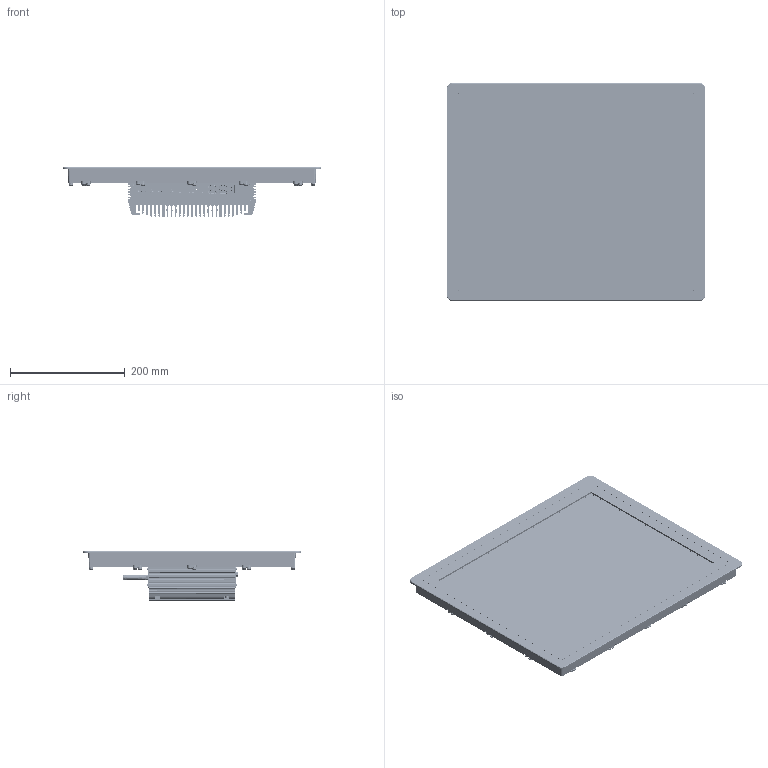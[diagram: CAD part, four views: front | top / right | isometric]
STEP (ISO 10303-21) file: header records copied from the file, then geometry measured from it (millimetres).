
FILE_DESCRIPTION(/* description */ (''),/* implementation_level */ '2;1');
FILE_NAME(/* name */ '19.0总装.stp',/* time_stamp */ '2026-03-05T10:44:02+08:00',/* author */ (''),/* organization */ (''),/* preprocessor_version */ 'ST-DEVELOPER v16',/* originating_system */ 'SIEMENS PLM Software NX 10.0',/* authorisation */ '');
FILE_SCHEMA (('AP203_CONFIGURATION_CONTROLLED_3D_DESIGN_OF_MECHANICAL_PARTS_AND_ASSEMBLIES_MIM_LF { 1 0 10303 403 2 1 2}'));
Products named in the file (1): Admi1FF8C4AFepos
Bounding box: 451 x 380 x 86 mm (x, y, z)
Volume: 2668718.9 mm3; surface area: 1256197.7 mm2
Topology: 220 solids, 239 shells, 14710 faces, 38091 edges, 23910 vertices
Faces by surface type: plane 5942, cylinder 5892, bspline 1880, torus 530, cone 332, sphere 134
Full cylindrical faces by diameter (mm): 3 x4, 4.2 x1, 6 x16, 7 x16
Entity records: 619260 total; most frequent: CARTESIAN_POINT 328260, ORIENTED_EDGE 75278, DIRECTION 38336, EDGE_CURVE 37645, B_SPLINE_CURVE_WITH_KNOTS 26323, VERTEX_POINT 23877, AXIS2_PLACEMENT_3D 16889, EDGE_LOOP 15680
